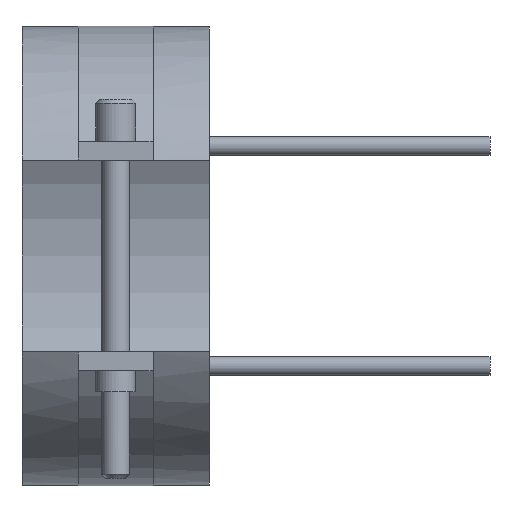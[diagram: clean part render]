
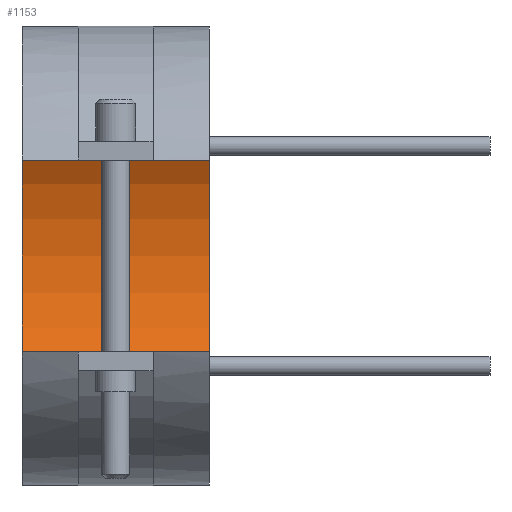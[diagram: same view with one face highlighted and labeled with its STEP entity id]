
A CAD part, front view. The second image highlights one B-rep face of the part: STEP entity #1153.
In plain terms, the highlighted cylindrical face has radius 45 mm (diameter 90 mm), a partial arc.
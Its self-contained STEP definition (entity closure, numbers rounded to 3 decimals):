
#834=CARTESIAN_POINT('Vertex',(-20.,0.,-45.)) ;
#841=CARTESIAN_POINT('Vertex',(20.,0.,-45.)) ;
#844=CARTESIAN_POINT('Line Origine',(20.,0.,-45.)) ;
#862=CARTESIAN_POINT('Axis2P3D Location',(-20.,0.,0.)) ;
#866=CARTESIAN_POINT('Vertex',(-20.,0.,45.)) ;
#923=CARTESIAN_POINT('Vertex',(20.,0.,45.)) ;
#933=CARTESIAN_POINT('Line Origine',(20.,0.,45.)) ;
#1024=CARTESIAN_POINT('Axis2P3D Location',(20.,0.,0.)) ;
#1142=CARTESIAN_POINT('Axis2P3D Location',(20.,0.,0.)) ;
#845=DIRECTION('Vector Direction',(1.,0.,0.)) ;
#863=DIRECTION('Axis2P3D Direction',(1.,0.,0.)) ;
#934=DIRECTION('Vector Direction',(1.,0.,0.)) ;
#1025=DIRECTION('Axis2P3D Direction',(1.,0.,0.)) ;
#1143=DIRECTION('Axis2P3D Direction',(1.,0.,-0.)) ;
#1144=DIRECTION('Axis2P3D XDirection',(0.,0.,-1.)) ;
#864=AXIS2_PLACEMENT_3D('Circle Axis2P3D',#862,#863,$) ;
#1026=AXIS2_PLACEMENT_3D('Circle Axis2P3D',#1024,#1025,$) ;
#1145=AXIS2_PLACEMENT_3D('Cylinder Axis2P3D',#1142,#1143,#1144) ;
#1148=ORIENTED_EDGE('',*,*,#1028,.T.) ;
#1149=ORIENTED_EDGE('',*,*,#937,.T.) ;
#1150=ORIENTED_EDGE('',*,*,#868,.F.) ;
#1151=ORIENTED_EDGE('',*,*,#848,.T.) ;
#846=VECTOR('Line Direction',#845,1.) ;
#935=VECTOR('Line Direction',#934,1.) ;
#1153=ADVANCED_FACE('14090040',(#1152),#1146,.F.) ;
#865=CIRCLE('generated circle',#864,45.) ;
#1027=CIRCLE('generated circle',#1026,45.) ;
#1146=CYLINDRICAL_SURFACE('generated cylinder',#1145,45.) ;
#848=EDGE_CURVE('',#835,#842,#847,.T.) ;
#868=EDGE_CURVE('',#835,#867,#865,.T.) ;
#937=EDGE_CURVE('',#924,#867,#936,.F.) ;
#1028=EDGE_CURVE('',#842,#924,#1027,.T.) ;
#1147=EDGE_LOOP('',(#1148,#1149,#1150,#1151)) ;
#1152=FACE_OUTER_BOUND('',#1147,.T.) ;
#847=LINE('Line',#844,#846) ;
#936=LINE('Line',#933,#935) ;
#835=VERTEX_POINT('',#834) ;
#842=VERTEX_POINT('',#841) ;
#867=VERTEX_POINT('',#866) ;
#924=VERTEX_POINT('',#923) ;
